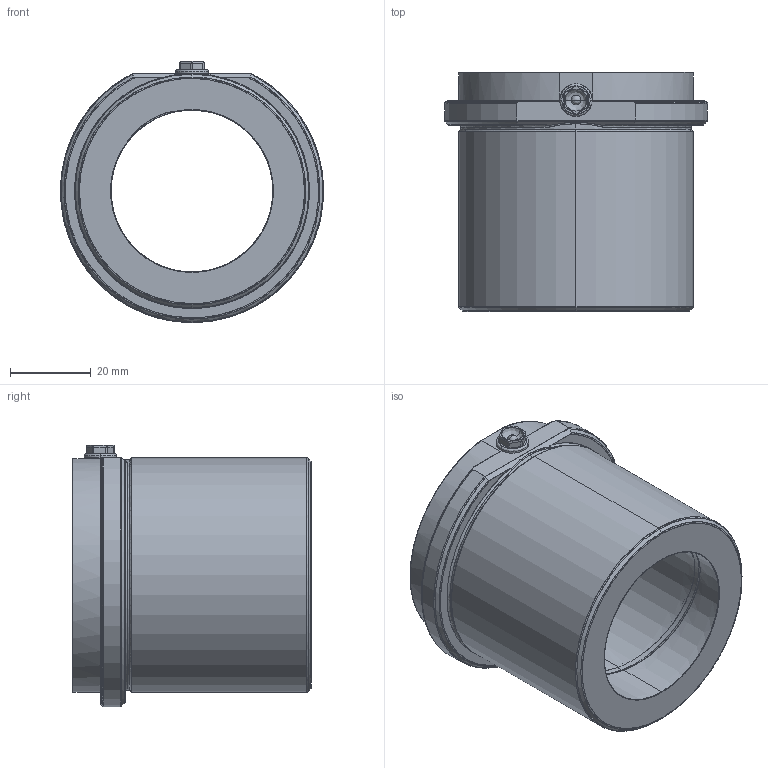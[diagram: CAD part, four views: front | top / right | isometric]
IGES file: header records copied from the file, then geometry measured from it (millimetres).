
Start section: SolidWorks IGES file using analytic representation for surfaces
Global section: file name: C:\Documents and Settings\kalite-mail\Desktop\HAZIR PARÇALAR\D24 Katý Model(son kontrolu yapýlacak)\D24 ÝGS\D24-40X46K.IGS; native system: SolidWorks 2008; preprocessor: SolidWorks 2008; author: kalite-mail; date: 080716.103919; units: millimetre
Bounding box: 64.99 x 59 x 64.5 mm (x, y, z)
Surface area: 22721.3 mm2 (no closed solid volume)
Topology: 0 solids, 0 shells, 131 faces, 2042 edges, 2026 vertices
Faces by surface type: bspline 83, revolution 48
